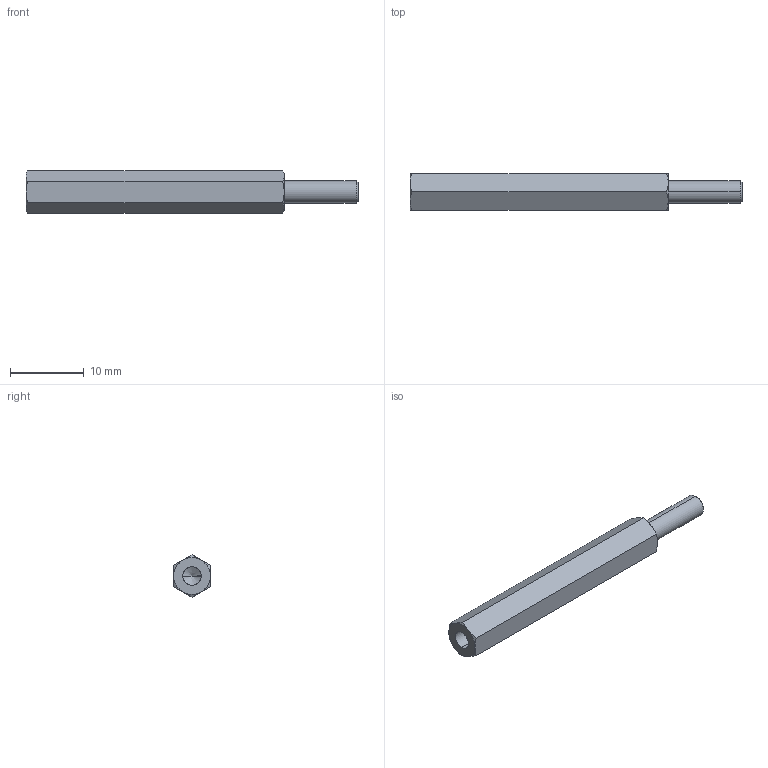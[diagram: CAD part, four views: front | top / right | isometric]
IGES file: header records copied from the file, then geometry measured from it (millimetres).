
Start section: SolidWorks IGES file using analytic representation for surfaces
Global section: file name: C:\Users\render1\Desktop\P0185_IGES\P0185.03-35.igs; native system: SolidWorks 2009; preprocessor: SolidWorks 2009; author: render1; date: 130627.111821; units: millimetre
Bounding box: 45 x 5 x 5.77 mm (x, y, z)
Surface area: 819.6 mm2 (no closed solid volume)
Topology: 0 solids, 0 shells, 29 faces, 324 edges, 322 vertices
Faces by surface type: revolution 20, bspline 9
